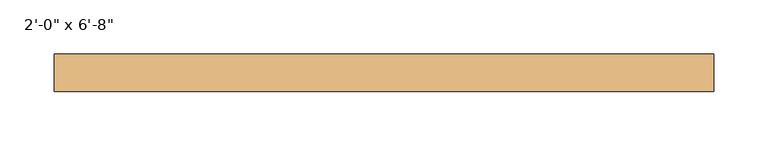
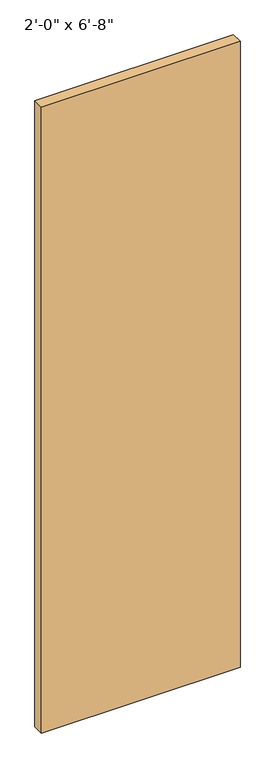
"""IFC4 building model written with IfcOpenShell, lengths in millimetres: door geometry."""

import ifcopenshell
import ifcopenshell.guid

model = None  # the IFC model being written
_history = None  # IfcOwnerHistory: only IFC2X3 demands one
_inside = {}  # id of a spatial element -> (the spatial element, [elements in it])
_under = {}  # id of a project, library or spatial element -> (it, [spatial elements below it])
_declared = {}  # id of a project -> (the project, [libraries it declares])
_typed = {}  # id of a type object -> (the type object, [elements of that type])
_made_of = {}  # id of a material, layer set ... -> (it, [elements and type objects made of it])


def new_model(schema):
    """Start an empty IFC model of exactly this schema.

    Asked for "IFC4X3", IfcOpenShell would pick the latest addendum, in which some entities
    have other attributes; the version numbers below select the first issue.
    IFC2X3 requires an IfcOwnerHistory on every rooted entity: one is made here for all.
    """
    global model, _history
    if schema == "IFC4X3":
        model = ifcopenshell.file(schema_version=(4, 3, 0, 0))
    else:
        model = ifcopenshell.file(schema=schema)
    _inside.clear()
    _under.clear()
    _declared.clear()
    _typed.clear()
    _made_of.clear()
    _history = None
    if model.schema == "IFC2X3":
        org = make("IfcOrganization", Name="unknown")
        user = make(
            "IfcPersonAndOrganization",
            ThePerson=make("IfcPerson", FamilyName="unknown"),
            TheOrganization=org,
        )
        app = make(
            "IfcApplication",
            ApplicationDeveloper=org,
            Version="unknown",
            ApplicationFullName="unknown",
            ApplicationIdentifier="unknown",
        )
        _history = make(
            "IfcOwnerHistory",
            OwningUser=user,
            OwningApplication=app,
            ChangeAction="ADDED",
            CreationDate=0,
        )
    return model


def make(cls, **values):
    """One entity of the class cls with the attributes given. An attribute that is None is left unset."""
    return model.create_entity(
        cls, **{name: value for name, value in values.items() if value is not None}
    )


def rooted(cls, **values):
    """An entity with a GlobalId (a new one), such as an element, a storey or a relation."""
    return make(cls, GlobalId=ifcopenshell.guid.new(), OwnerHistory=_history, **values)


def si_unit(unit_type, name, prefix=None):
    """IfcSIUnit, for example si_unit("LENGTHUNIT", "METRE", prefix="MILLI")."""
    return make("IfcSIUnit", UnitType=unit_type, Prefix=prefix, Name=name)


def assignment(units):
    """IfcUnitAssignment: the units of a project."""
    return None if units is None else make("IfcUnitAssignment", Units=units)


def point(xyz):
    """IfcCartesianPoint."""
    return None if xyz is None else make("IfcCartesianPoint", Coordinates=xyz)


def direction(xyz):
    """IfcDirection."""
    return None if xyz is None else make("IfcDirection", DirectionRatios=xyz)


def frame(location, z_axis=None, x_axis=None):
    """IfcAxis2Placement3D, a coordinate frame: its origin and axes. An axis left out is left unset."""
    return make(
        "IfcAxis2Placement3D",
        Location=point(location),
        Axis=direction(z_axis),
        RefDirection=direction(x_axis),
    )


def origin():
    """The frame at (0, 0, 0) with its axes left unset."""
    return frame((0.0, 0.0, 0.0))


def origin_with_axes():
    """The frame at (0, 0, 0) with the z axis (0, 0, 1) and the x axis (1, 0, 0) written out."""
    return frame((0.0, 0.0, 0.0), z_axis=(0.0, 0.0, 1.0), x_axis=(1.0, 0.0, 0.0))


def place(relative_to, where):
    """IfcLocalPlacement: puts the frame where relative to a parent placement (None: the world)."""
    return make(
        "IfcLocalPlacement", PlacementRelTo=relative_to, RelativePlacement=where
    )


def context(
    kind, dimensions, precision=None, world=None, true_north=None, identifier=None
):
    """IfcGeometricRepresentationContext, for example the 3D "Model" context."""
    return make(
        "IfcGeometricRepresentationContext",
        ContextIdentifier=identifier,
        ContextType=kind,
        CoordinateSpaceDimension=dimensions,
        Precision=precision,
        WorldCoordinateSystem=world,
        TrueNorth=true_north,
    )


def project(units=None, contexts=None):
    """IfcProject with its units and contexts."""
    return rooted(
        "IfcProject",
        Name="project",
        RepresentationContexts=contexts,
        UnitsInContext=assignment(units),
    )


def spatial(cls, under=None, at=None, **own):
    """A site, building, storey or space (cls), placed at a placement, below another one or the project."""
    s = rooted(cls, ObjectPlacement=at, **own)
    if under is not None:
        _under.setdefault(under.id(), (under, []))[1].append(s)
    return s


def polyline(points):
    """IfcPolyline through the points."""
    return make("IfcPolyline", Points=[point(p) for p in points])


def outline(outer, holes=None, kind="AREA"):
    """IfcArbitraryClosedProfileDef: a profile drawn as a closed curve; with holes, ...WithVoids."""
    if holes is None:
        return make("IfcArbitraryClosedProfileDef", ProfileType=kind, OuterCurve=outer)
    return make(
        "IfcArbitraryProfileDefWithVoids",
        ProfileType=kind,
        OuterCurve=outer,
        InnerCurves=holes,
    )


def extrude(swept, where, along, depth):
    """IfcExtrudedAreaSolid: the profile swept, set in the frame where, extruded along a direction by depth."""
    return make(
        "IfcExtrudedAreaSolid",
        SweptArea=swept,
        Position=where,
        ExtrudedDirection=direction(along),
        Depth=depth,
    )


def shape(context_of_items, identifier, shape_type, items):
    """IfcShapeRepresentation: the items that make up one representation, for example the "Body"."""
    return make(
        "IfcShapeRepresentation",
        ContextOfItems=context_of_items,
        RepresentationIdentifier=identifier,
        RepresentationType=shape_type,
        Items=items,
    )


def source(mapping_origin, context_of_items, identifier, shape_type, items):
    """IfcRepresentationMap: a shape defined once, which mapped items show again and again."""
    return make(
        "IfcRepresentationMap",
        MappingOrigin=mapping_origin,
        MappedRepresentation=shape(context_of_items, identifier, shape_type, items),
    )


def transform(
    local_origin,
    x_axis=None,
    y_axis=None,
    z_axis=None,
    scale=None,
    scale2=None,
    scale3=None,
    uniform=True,
):
    """IfcCartesianTransformationOperator3D, or its non-uniform kind. x_axis, y_axis, z_axis: its Axis1, 2, 3."""
    if uniform:
        return make(
            "IfcCartesianTransformationOperator3D",
            Axis1=direction(x_axis),
            Axis2=direction(y_axis),
            LocalOrigin=point(local_origin),
            Scale=scale,
            Axis3=direction(z_axis),
        )
    return make(
        "IfcCartesianTransformationOperator3DnonUniform",
        Axis1=direction(x_axis),
        Axis2=direction(y_axis),
        LocalOrigin=point(local_origin),
        Scale=scale,
        Axis3=direction(z_axis),
        Scale2=scale2,
        Scale3=scale3,
    )


def mapped(mapping_source, mapping_target):
    """IfcMappedItem: shows the shape of a source again, moved by a transform."""
    return make(
        "IfcMappedItem", MappingSource=mapping_source, MappingTarget=mapping_target
    )


def made_of(thing, what):
    """Note that an element or type object is made of a material, layer set ...; save() writes the relation."""
    if what is not None:
        _made_of.setdefault(what.id(), (what, []))[1].append(thing)
    return thing


def element(
    cls,
    number,
    at=None,
    inside=None,
    cuts=None,
    type_object=None,
    material=None,
    context=None,
    identifier="Body",
    shape_type=None,
    held_by="IfcProductDefinitionShape",
    body=None,
    shapes=None,
    **own,
):
    """One element of the class cls, such as IfcWall. Its Tag is "e" and its number.

    at: its placement. inside: the storey or other place that contains it. cuts: it is an
    opening in that element (IfcRelVoidsElement). A single representation is given by context,
    identifier, shape_type and body (its items); several are given by shapes. held_by: the class
    of the entity that holds the representations. save() writes the other relations.
    """
    e = rooted(cls, Tag="e%d" % number, ObjectPlacement=at, **own)
    if body is not None:
        shapes = [shape(context, identifier, shape_type, body)]
    if shapes is not None:
        e.Representation = make(held_by, Representations=shapes)
    if inside is not None:
        _inside.setdefault(inside.id(), (inside, []))[1].append(e)
    if cuts is not None:
        rooted(
            "IfcRelVoidsElement", RelatingBuildingElement=cuts, RelatedOpeningElement=e
        )
    if type_object is not None:
        _typed.setdefault(type_object.id(), (type_object, []))[1].append(e)
    return made_of(e, material)


def aggregate(whole, parts):
    """IfcRelAggregates: a whole, such as a stair, and the parts it consists of."""
    return rooted("IfcRelAggregates", RelatingObject=whole, RelatedObjects=parts)


def save(model, path):
    """Write the relations noted so far, then the file.

    IfcRelAggregates (storeys below a building ...), IfcRelContainedInSpatialStructure (elements
    in a storey), IfcRelDefinesByType, IfcRelAssociatesMaterial and IfcRelDeclares: one each for
    every whole, place, type object, material and project.
    """
    for whole, parts in _under.values():
        aggregate(whole, parts)
    for where, things in _inside.values():
        rooted(
            "IfcRelContainedInSpatialStructure",
            RelatedElements=things,
            RelatingStructure=where,
        )
    for kind, things in _typed.values():
        rooted("IfcRelDefinesByType", RelatedObjects=things, RelatingType=kind)
    for what, things in _made_of.values():
        rooted("IfcRelAssociatesMaterial", RelatedObjects=things, RelatingMaterial=what)
    for by, libraries in _declared.values():
        rooted("IfcRelDeclares", RelatingContext=by, RelatedDefinitions=libraries)
    model.write(path)


def door_e9feb998(model_context):
    return source(origin(), model_context, "Body", "SweptSolid", [
        extrude(outline(polyline([(304.8, -17.5), (-304.8, -17.5), (-304.8, 17.5), (304.8, 17.5), (304.8, -17.5)])), origin_with_axes(), (0.0, 0.0, 1.0), 2032.0),
    ])


if __name__ == "__main__":
    model = new_model("IFC4")
    model_context = context("Model", 3, world=origin())
    ifc_project = project(units=[si_unit("LENGTHUNIT", "METRE", prefix="MILLI")], contexts=[model_context])
    site = spatial("IfcSite", under=ifc_project)
    building = spatial("IfcBuilding", under=site)
    placement = place(None, origin())
    door_shape = door_e9feb998(model_context)
    element("IfcDoor", 1, ObjectType="Planitar - Single Pocket Door : 2'-0\" x 6'-8\"", at=placement, inside=building, context=model_context, shape_type="MappedRepresentation", body=[
        mapped(door_shape, transform((0.0, 0.0, 0.0), x_axis=(1.0, 0.0, 0.0), y_axis=(0.0, 1.0, 0.0), z_axis=(0.0, 0.0, 1.0))),
    ])
    save(model, "model.ifc")
